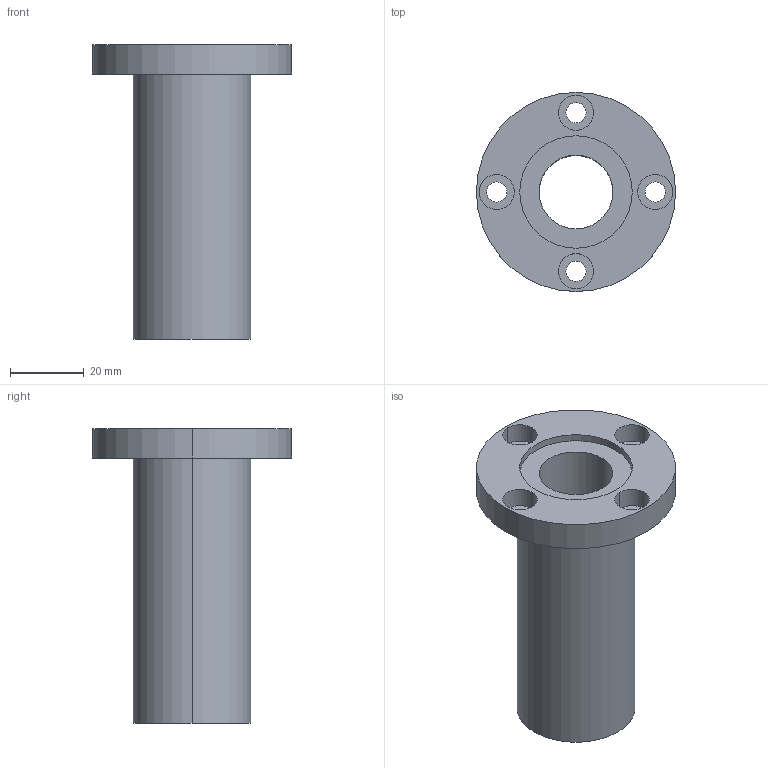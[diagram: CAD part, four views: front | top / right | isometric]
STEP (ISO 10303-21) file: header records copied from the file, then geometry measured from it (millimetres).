
FILE_DESCRIPTION((''),'2;1');
FILE_NAME('C:\Documents and Settings\ｿﾀﾀ蠑ｷ1\ｹﾙﾅﾁ ﾈｭｸ饅\ｺﾎﾇｰﾆﾄﾀﾏ\ﾁｦﾇｰ\LMEF__LUU\LMEF20LUU.stp','2005-06-15T10:53:48',('ｿﾀﾀ蠑ｷ1'),(''),'Autodesk Inventor 9','Autodesk Inventor 9','');
FILE_SCHEMA(('AUTOMOTIVE_DESIGN { 1 0 10303 214 1 1 1 1 }'));
Length unit declared in the file: millimetre
Products named in the file (1): LMEF__(L)
Bounding box: 54 x 54 x 80 mm (x, y, z)
Volume: 47651.1 mm3; surface area: 18340.2 mm2
Topology: 1 solids, 1 shells, 35 faces, 78 edges, 52 vertices
Faces by surface type: bspline 20, cylinder 10, plane 5
Entity records: 1255 total; most frequent: CARTESIAN_POINT 450, DIRECTION 162, ORIENTED_EDGE 156, EDGE_CURVE 78, AXIS2_PLACEMENT_3D 68, VERTEX_POINT 52, CIRCLE 52, EDGE_LOOP 52
